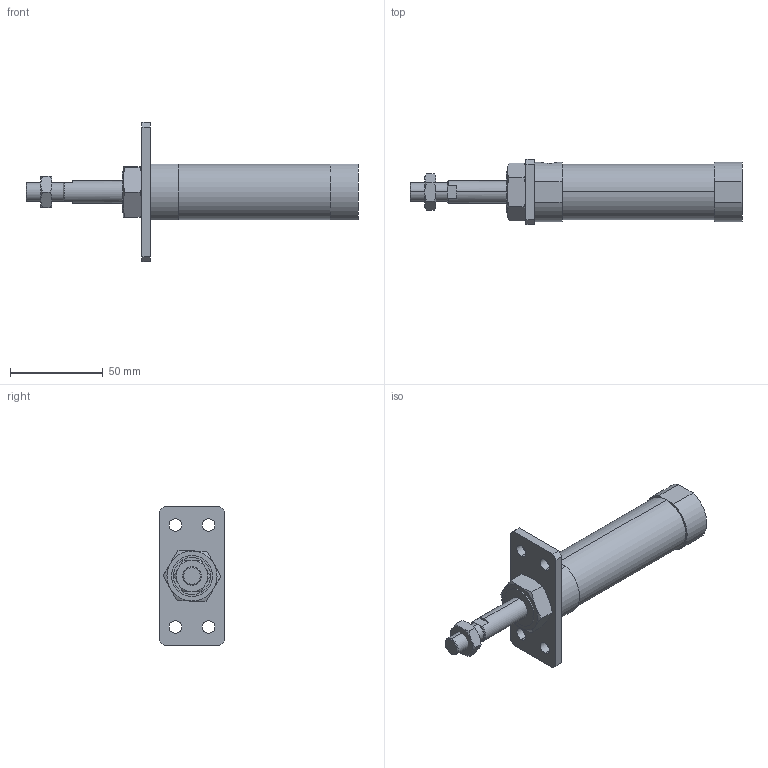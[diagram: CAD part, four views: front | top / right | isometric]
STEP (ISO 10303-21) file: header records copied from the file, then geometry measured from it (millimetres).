
FILE_DESCRIPTION (( 'STEP AP203' ), '1' );
FILE_NAME ('JGND0-25-25-A.STEP', '2016-08-04T02:08:39', ( '' ), ( '' ), 'SwSTEP 2.0', 'SolidWorks 2014', '' );
FILE_SCHEMA (( 'CONFIG_CONTROL_DESIGN' ));
Length unit declared in the file: millimetre
Products named in the file (5): J#2-25-A; J#0-25-25(P); JGND0-25-25-A
Assembly tree (4 placements, depth 2):
  JGND0-25-25-A
    J#0-25-25(P)
    (unnamed)
    (unnamed)
    J#2-25-A
Bounding box: 179 x 35 x 75 mm (x, y, z)
Volume: 104670.6 mm3; surface area: 24741.7 mm2
Topology: 4 solids, 4 shells, 105 faces, 242 edges, 147 vertices
Faces by surface type: plane 45, cylinder 30, torus 24, cone 6
Entity records: 3749 total; most frequent: CARTESIAN_POINT 873, DIRECTION 500, ORIENTED_EDGE 480, EDGE_CURVE 240, AXIS2_PLACEMENT_3D 202, VERTEX_POINT 147, EDGE_LOOP 123, ADVANCED_FACE 105
